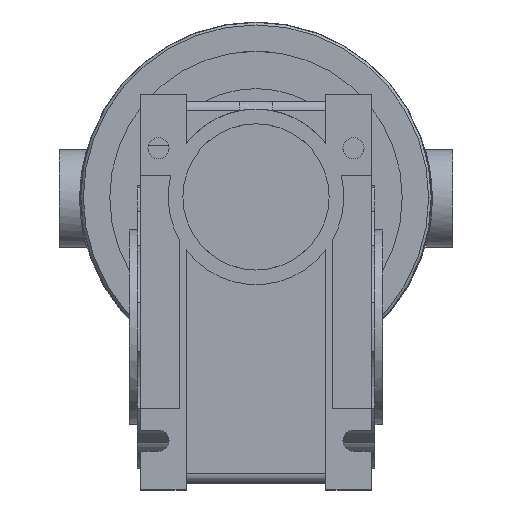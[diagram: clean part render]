
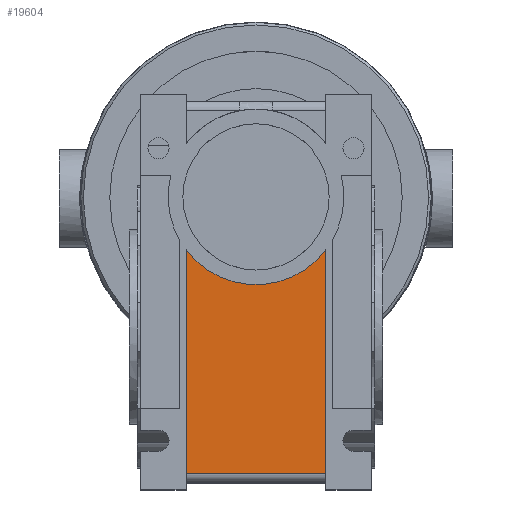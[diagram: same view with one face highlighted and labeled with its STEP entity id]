
A CAD part, top view. The second image highlights one B-rep face of the part: STEP entity #19604.
In plain terms, the highlighted planar face has unit normal (0, 0, 1).
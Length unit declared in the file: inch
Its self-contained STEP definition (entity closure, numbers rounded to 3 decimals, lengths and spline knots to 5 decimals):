
#4836 = CARTESIAN_POINT ( 'NONE',  ( -0.84646, -0.64301, 3.89764 ) ) ;
#4851 = DIRECTION ( 'NONE',  ( 0., -1., 0. ) ) ;
#4852 = VECTOR ( 'NONE', #4851, 39.37008 ) ;
#4853 = CARTESIAN_POINT ( 'NONE',  ( -0.84646, -0.64301, 3.89764 ) ) ;
#4854 = LINE ( 'NONE', #4853, #4852 ) ;
#4908 = DIRECTION ( 'NONE',  ( 0., -1., 0. ) ) ;
#4909 = DIRECTION ( 'NONE',  ( 0., 0., -1. ) ) ;
#4910 = AXIS2_PLACEMENT_3D ( 'NONE', #4911, #4909, #4908 ) ;
#4911 = CARTESIAN_POINT ( 'NONE',  ( 0., 0., 3.89764 ) ) ;
#4912 = PLANE ( 'NONE',  #4910 ) ;
#4917 = FACE_OUTER_BOUND ( 'NONE', #19577, .T. ) ;
#4923 = CARTESIAN_POINT ( 'NONE',  ( -0.84646, -3.34646, 3.89764 ) ) ;
#4931 = DIRECTION ( 'NONE',  ( 1., 0., 0. ) ) ;
#4932 = VECTOR ( 'NONE', #4931, 39.37008 ) ;
#4933 = CARTESIAN_POINT ( 'NONE',  ( 0., -3.34646, 3.89764 ) ) ;
#4934 = LINE ( 'NONE', #4933, #4932 ) ;
#4985 = CARTESIAN_POINT ( 'NONE',  ( 0.84646, -3.34646, 3.89764 ) ) ;
#5120 = LINE ( 'NONE', #5188, #5187 ) ;
#5125 = CARTESIAN_POINT ( 'NONE',  ( 0.84646, -0.64301, 3.89764 ) ) ;
#5142 = DIRECTION ( 'NONE',  ( 1., 0., 0. ) ) ;
#5144 = DIRECTION ( 'NONE',  ( 0., 0., -1. ) ) ;
#5145 = AXIS2_PLACEMENT_3D ( 'NONE', #5154, #5144, #5142 ) ;
#5146 = CIRCLE ( 'NONE', #5145, 1.06299 ) ;
#5154 = CARTESIAN_POINT ( 'NONE',  ( 0., 0., 3.89764 ) ) ;
#5186 = DIRECTION ( 'NONE',  ( 0., 1., 0. ) ) ;
#5187 = VECTOR ( 'NONE', #5186, 39.37008 ) ;
#5188 = CARTESIAN_POINT ( 'NONE',  ( 0.84646, -3.46457, 3.89764 ) ) ;
#19577 = EDGE_LOOP ( 'NONE', ( #19585, #19734, #19728, #19709 ) ) ;
#19579 = EDGE_CURVE ( 'NONE', #19587, #19603, #4854, .T. ) ;
#19585 = ORIENTED_EDGE ( 'NONE', *, *, #19579, .T. ) ;
#19587 = VERTEX_POINT ( 'NONE', #4836 ) ;
#19603 = VERTEX_POINT ( 'NONE', #4923 ) ;
#19604 = ADVANCED_FACE ( 'NONE', ( #4917 ), #4912, .F. ) ;
#19627 = EDGE_CURVE ( 'NONE', #19603, #19631, #4934, .T. ) ;
#19631 = VERTEX_POINT ( 'NONE', #4985 ) ;
#19709 = ORIENTED_EDGE ( 'NONE', *, *, #19717, .T. ) ;
#19717 = EDGE_CURVE ( 'NONE', #19722, #19587, #5146, .T. ) ;
#19722 = VERTEX_POINT ( 'NONE', #5125 ) ;
#19728 = ORIENTED_EDGE ( 'NONE', *, *, #19729, .T. ) ;
#19729 = EDGE_CURVE ( 'NONE', #19631, #19722, #5120, .T. ) ;
#19734 = ORIENTED_EDGE ( 'NONE', *, *, #19627, .T. ) ;
